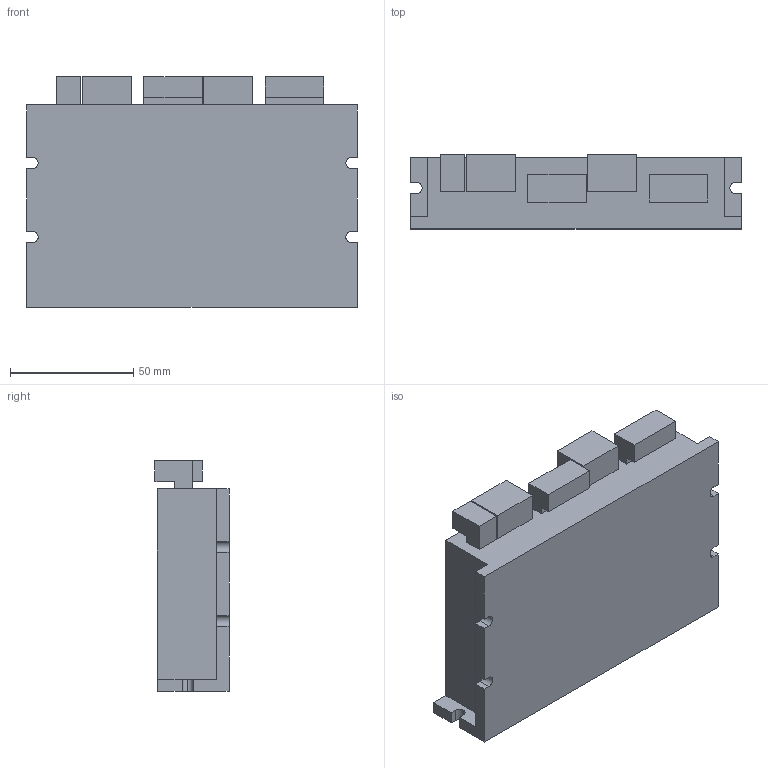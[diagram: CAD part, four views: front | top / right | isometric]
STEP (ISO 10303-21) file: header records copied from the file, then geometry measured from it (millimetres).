
FILE_DESCRIPTION (( 'STEP AP214' ), '1' );
FILE_NAME ('R60X2.STEP', '2020-10-31T00:58:12', ( 'wimxt.com' ), ( 'wimxt.com' ), 'SwSTEP 2.0', 'SolidWorks 2014', '' );
FILE_SCHEMA (( 'AUTOMOTIVE_DESIGN' ));
Length unit declared in the file: millimetre
Products named in the file (1): R60X2
Bounding box: 134 x 30 x 93.5 mm (x, y, z)
Volume: 305107.4 mm3; surface area: 39285.8 mm2
Topology: 1 solids, 1 shells, 72 faces, 195 edges, 130 vertices
Faces by surface type: plane 65, cylinder 7
Entity records: 2267 total; most frequent: CARTESIAN_POINT 398, ORIENTED_EDGE 390, DIRECTION 355, EDGE_CURVE 195, LINE 181, VECTOR 181, VERTEX_POINT 130, AXIS2_PLACEMENT_3D 87
